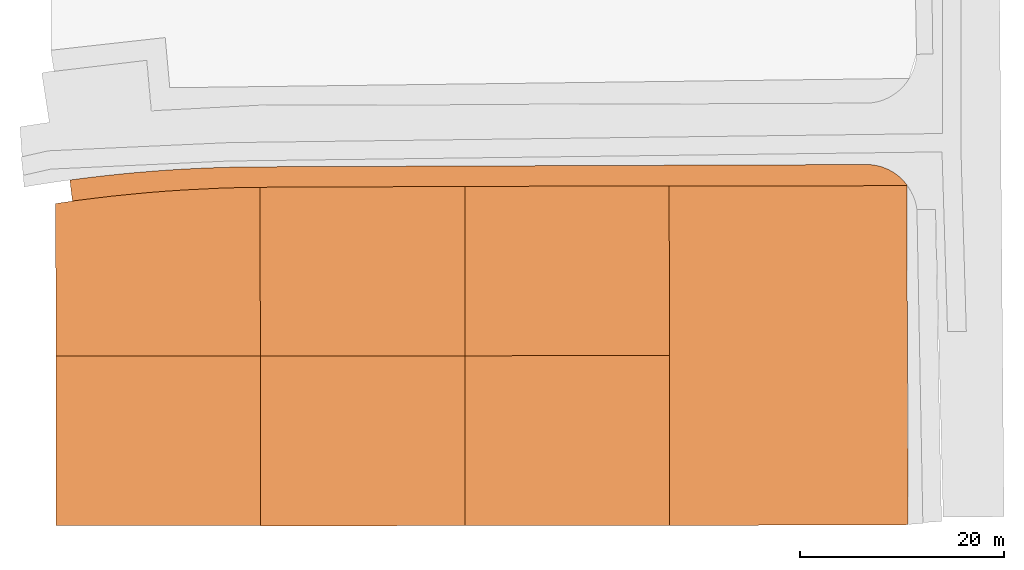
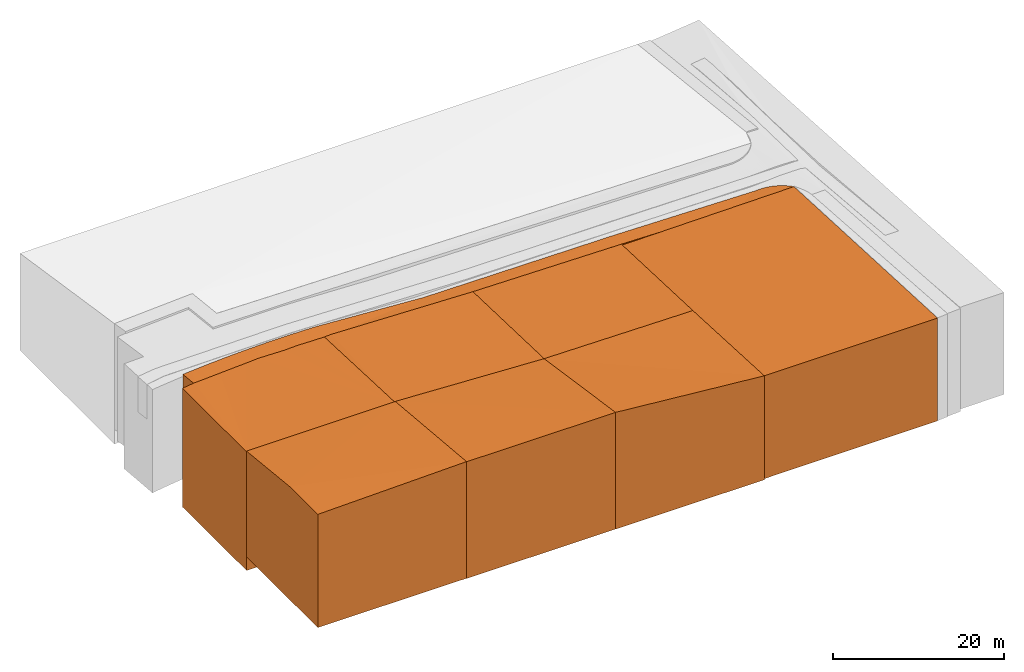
# Not in any storey, part 1 of 2: 8 geographic elements.
"""IFC4 model written with IfcOpenShell, lengths in metres."""

from ifc_helpers import new_model, entity, si_unit, converted_unit, derived_unit, direction, frame, origin_with_axes, place, context, subcontext, project, spatial, polygons, material, type_object, element, save


model = new_model("IFC4")

# Units and contexts
model_context = context("Model", 3, precision=1e-05, world=origin_with_axes(), true_north=direction((0.0, 1.0)))
body_context = subcontext(model_context, "Body", "Model", "MODEL_VIEW")
ifc_project = project(units=[si_unit("LENGTHUNIT", "METRE"), si_unit("AREAUNIT", "SQUARE_METRE"), si_unit("VOLUMEUNIT", "CUBIC_METRE"), converted_unit("PLANEANGLEUNIT", "DEGREE", entity("IfcPlaneAngleMeasure", 0.0174532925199), si_unit("PLANEANGLEUNIT", "RADIAN"), dimensions=[0, 0, 0, 0, 0, 0, 0]), si_unit("SOLIDANGLEUNIT", "STERADIAN"), converted_unit("TIMEUNIT", "Year", entity("IfcTimeMeasure", 31556926.0), si_unit("TIMEUNIT", "SECOND"), dimensions=[0, 0, 1, 0, 0, 0, 0]), si_unit("MASSUNIT", "GRAM", prefix="KILO"), si_unit("THERMODYNAMICTEMPERATUREUNIT", "DEGREE_CELSIUS"), si_unit("LUMINOUSINTENSITYUNIT", "LUMEN"), si_unit("ENERGYUNIT", "JOULE", prefix="MEGA"), derived_unit("THERMALCONDUCTANCEUNIT", [(si_unit("POWERUNIT", "WATT"), 1), (si_unit("LENGTHUNIT", "METRE"), -1), (si_unit("THERMODYNAMICTEMPERATUREUNIT", "KELVIN"), -1)]), derived_unit("SPECIFICHEATCAPACITYUNIT", [(si_unit("ENERGYUNIT", "JOULE"), 1), (si_unit("MASSUNIT", "GRAM", prefix="KILO"), -1), (si_unit("THERMODYNAMICTEMPERATUREUNIT", "KELVIN"), -1)]), derived_unit("MASSDENSITYUNIT", [(si_unit("MASSUNIT", "GRAM", prefix="KILO"), 1), (si_unit("VOLUMEUNIT", "CUBIC_METRE"), -1)])], contexts=[model_context])

# Site
site_placement = place(None, origin_with_axes())
site = spatial("IfcSite", under=ifc_project, at=site_placement, Name="Site", CompositionType="ELEMENT")

# Geographic elements
ifc_material = material(Name="Env. - Terre")
geographic_element_type = type_object("IfcGeographicElementType", Name="Env. - Terre", PredefinedType="NOTDEFINED")
geographic_element_1_placement = place(site_placement, frame((-61.6019965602, -16.826322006, 24.1732398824), z_axis=(0.0, 0.0, 1.0), x_axis=(1.0, 0.0, 0.0)))
element("IfcGeographicElement", 1, at=geographic_element_1_placement, inside=site, type_object=geographic_element_type, material=ifc_material, Name="TERRAIN-006", PredefinedType="NOTDEFINED", context=body_context, shape_type="Tessellation", body=[
    polygons([(20.1101505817, 16.6449490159, 13.6967425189), (0.937124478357, 16.5696756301, 14.3630794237), (20.1213346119, 0.00632140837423, 14.2135741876), (0.937124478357, 16.5696756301, 0.0), (20.1101505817, 16.6449490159, 0.0), (0.0128373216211, 0.0, 14.9917588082), (20.1213346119, 0.00632140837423, 0.0), (0.0, 16.5642294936, 0.0), (0.0, 16.5642294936, 14.319904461), (0.0128373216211, 0.0, 0.0)], [[[1, 2, 3]], [[4, 2, 1, 5]], [[3, 2, 6]], [[5, 1, 3, 7]], [[8, 9, 2, 4]], [[7, 10, 8, 4, 5]], [[2, 9, 6]], [[7, 3, 6, 10]], [[10, 6, 9, 8]]], closed=True),
])
geographic_element_2_placement = place(site_placement, frame((-81.6851109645, -33.4934445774, 24.1732398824), z_axis=(0.0, 0.0, 1.0), x_axis=(1.0, 0.0, 0.0)))
element("IfcGeographicElement", 2, at=geographic_element_2_placement, inside=site, type_object=geographic_element_type, material=ifc_material, Name="TERRAIN-006", PredefinedType="NOTDEFINED", context=body_context, shape_type="Tessellation", body=[
    polygons([(0.0112812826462, 0.0, 16.1603548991), (20.0991542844, 0.000425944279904, 16.6659378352), (0.0, 6.48702927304, 16.1603548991), (20.0991542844, 0.000425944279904, 0.0), (0.0112812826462, 0.0, 0.0), (20.0959517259, 16.6671225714, 15.1557880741), (0.0, 6.48702927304, 0.0), (20.0959517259, 16.6671225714, 0.0), (0.00486262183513, 16.6560357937, 0.0), (0.00486262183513, 16.6560357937, 15.0958883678)], [[[1, 2, 3]], [[4, 2, 1, 5]], [[6, 3, 2]], [[5, 1, 3, 7]], [[8, 6, 2, 4]], [[5, 7, 9, 8, 4]], [[10, 3, 6]], [[7, 3, 10, 9]], [[9, 10, 6, 8]]], closed=True),
])
geographic_element_3_placement = place(site_placement, frame((-41.4918459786, -16.8200005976, 24.1732398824), z_axis=(0.0, 0.0, 1.0), x_axis=(1.0, 0.0, 0.0)))
element("IfcGeographicElement", 3, at=geographic_element_3_placement, inside=site, type_object=geographic_element_type, material=ifc_material, Name="TERRAIN-012", PredefinedType="NOTDEFINED", context=body_context, shape_type="Tessellation", body=[
    polygons([(20.0879770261, 16.7067043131, 13.4031750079), (0.0, 16.6386276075, 13.6967425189), (20.1022731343, 0.0110867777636, 14.0438783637), (0.0, 16.6386276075, 0.0), (20.0879770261, 16.7067043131, 0.0), (0.0111840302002, 0.0, 14.2135741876), (20.1022731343, 0.0110867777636, 0.0), (0.0111840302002, 0.0, 0.0)], [[[1, 2, 3]], [[4, 2, 1, 5]], [[2, 6, 3]], [[5, 1, 3, 7]], [[8, 6, 2, 4]], [[7, 8, 4, 5]], [[7, 3, 6, 8]]], closed=True),
])
geographic_element_4_placement = place(site_placement, frame((-81.6977537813, -16.8374087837, 22.2291680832), z_axis=(0.0, 0.0, 1.0), x_axis=(1.0, 0.0, 0.0)))
element("IfcGeographicElement", 4, at=geographic_element_4_placement, inside=site, type_object=geographic_element_type, material=ifc_material, Name="TERRAIN-009", PredefinedType="NOTDEFINED", context=body_context, shape_type="Tessellation", body=[
    polygons([(18.2737328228, 16.5501278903, 16.3071512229), (16.4358562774, 16.5012099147, 16.3917643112), (20.1085945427, 0.0110867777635, 16.9358306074), (16.4358562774, 16.5012099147, 0.0), (18.2737328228, 16.5501278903, 0.0), (14.6058571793, 16.4127101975, 16.3915138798), (20.0957572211, 16.5753162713, 16.2639762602), (14.6058571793, 16.4127101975, 0.0), (20.0957572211, 16.5753162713, 0.0), (20.1085945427, 0.0110867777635, 0.0), (0.0175054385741, 0.0, 0.0), (0.0, 14.9749301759, 0.0), (1.81434145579, 15.2454864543, 0.0), (3.63656035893, 15.4764609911, 0.0), (5.46510067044, 15.69634875, 0.0), (7.28411024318, 15.8814201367, 0.0), (9.10944122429, 16.0554047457, 0.0), (10.9363282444, 16.2008943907, 0.0), (12.7647713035, 16.3178890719, 0.0), (12.7647713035, 16.3178890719, 16.5122324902), (0.0175054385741, 0.0, 16.9358306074), (0.0, 14.9749301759, 16.9358306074), (1.81434145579, 15.2454864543, 16.9358306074), (3.63656035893, 15.4764609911, 16.8278532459), (5.46510067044, 15.69634875, 16.7459225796), (7.28411024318, 15.8814201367, 16.6945955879), (9.10944122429, 16.0554047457, 16.6422586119), (10.9363282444, 16.2008943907, 16.6422586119)], [[[1, 2, 3]], [[4, 2, 1, 5]], [[2, 6, 3]], [[7, 1, 3]], [[8, 6, 2, 4]], [[5, 1, 7, 9]], [[9, 10, 11, 12, 13, 14, 15, 16, 17, 18, 19, 8, 4, 5]], [[6, 20, 3]], [[9, 7, 3, 10]], [[19, 20, 6, 8]], [[10, 3, 21, 11]], [[11, 21, 22, 12]], [[12, 22, 23, 13]], [[13, 23, 24, 14]], [[14, 24, 25, 15]], [[15, 25, 26, 16]], [[16, 26, 27, 17]], [[17, 27, 28, 18]], [[18, 28, 20, 19]], [[20, 28, 3]], [[21, 3, 27]], [[23, 22, 21]], [[24, 23, 21]], [[25, 24, 21]], [[26, 25, 21]], [[27, 26, 21]], [[28, 27, 3]]], closed=True),
])
geographic_element_5_placement = place(site_placement, frame((-21.4038689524, -33.5045313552, 24.3240901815), z_axis=(0.0, 0.0, 1.0), x_axis=(1.0, 0.0, 0.0)))
element("IfcGeographicElement", 5, at=geographic_element_5_placement, inside=site, type_object=geographic_element_type, material=ifc_material, Name="TERRAIN-006", PredefinedType="NOTDEFINED", context=body_context, shape_type="Tessellation", body=[
    polygons([(0.0, 33.3912350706, 13.091207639), (23.4683309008, 0.0794355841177, 14.6948484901), (23.3551713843, 33.4703840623, 13.2481073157), (0.0285922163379, 0.0, 14.6948484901), (23.3551713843, 33.4703840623, 0.0), (23.4683309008, 0.0794355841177, 0.0), (0.0, 33.3912350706, 0.0), (0.0285922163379, 0.0, 0.0)], [[[1, 2, 3]], [[4, 2, 1]], [[5, 3, 2, 6]], [[7, 1, 3, 5]], [[6, 2, 4, 8]], [[8, 4, 1, 7]], [[7, 5, 6, 8]]], closed=True),
])
geographic_element_6_placement = place(site_placement, frame((-80.3042681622, -1.61652489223, 24.3240901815), z_axis=(0.0, 0.0, 1.0), x_axis=(1.0, 0.0, 0.0)))
element("IfcGeographicElement", 6, at=geographic_element_6_placement, inside=site, type_object=geographic_element_type, material=ifc_material, Name="TERRAIN-001", PredefinedType="NOTDEFINED", context=body_context, shape_type="Tessellation", body=[
    polygons([(5.89062462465, 0.66053624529, 14.5996734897), (7.71595560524, 0.834520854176, 14.5473365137), (6.14089677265, 2.76679082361, 14.774128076), (7.71595560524, 0.834520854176, 0.0), (5.89062462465, 0.66053624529, 0.0), (7.33426005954, 2.87152822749, 14.7408980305), (4.94845151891, 2.65207301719, 14.8073519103), (9.54284262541, 0.980010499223, 0.0), (9.54284262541, 0.980010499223, 14.4918450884), (4.0716150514, 0.475464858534, 14.6510004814), (4.0716150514, 0.475464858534, 0.0), (0.255871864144, 0.0, 0.0), (0.0, 2.06671236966, 0.0), (0.189519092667, 2.09356883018, 0.0), (1.37745827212, 2.24812097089, 0.0), (2.56664890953, 2.39272901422, 0.0), (3.7570077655, 2.52738283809, 0.0), (4.94845151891, 2.65207301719, 0.0), (6.14089677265, 2.76679082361, 0.0), (7.33426005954, 2.87152822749, 0.0), (8.52845784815, 2.96627789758, 0.0), (9.7234065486, 3.05103320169, 0.0), (10.9190225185, 3.12578820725, 0.0), (12.1152220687, 3.19053768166, 0.0), (13.3119214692, 3.24527709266, 0.0), (14.509036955, 3.29000260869, 0.0), (15.7064847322, 3.3247110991, 0.0), (16.9041809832, 3.34940013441, 0.0), (18.1020418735, 3.36406798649, 0.0), (33.315022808, 3.42306478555, 0.0), (58.8925693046, 3.52225599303, 0.0), (78.1404491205, 3.59003014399, 0.0), (78.203196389, 3.59279423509, 0.0), (78.4260953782, 3.59167957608, 0.0), (78.648716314, 3.58049383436, 0.0), (78.8706043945, 3.55925986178, 0.0), (79.0913063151, 3.52802103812, 0.0), (79.3103711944, 3.4868411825, 0.0), (79.5273514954, 3.43580442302, 0.0), (79.7418039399, 3.37501502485, 0.0), (79.9532904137, 3.30459717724, 0.0), (80.1613788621, 3.22469473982, 0.0), (80.3656441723, 3.1354709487, 0.0), (80.565669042, 3.03710808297, 0.0), (80.7610448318, 2.92980709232, 0.0), (80.9513724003, 2.81378718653, 0.0), (81.1362629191, 2.68928538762, 0.0), (81.3153386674, 2.55655604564, 0.0), (81.4882338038, 2.41587031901, 0.0), (81.6545951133, 2.26751562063, 0.0), (81.8140827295, 2.11179503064, 0.0), (81.9663708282, 1.94902667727, 0.0), (82.1111482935, 1.77954308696, 0.0), (82.2481193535, 1.60369050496, 0.0), (82.3125617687, 1.51275934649, 0.0), (74.5758217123, 1.50004395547, 0.0), (58.9003992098, 1.50322860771, 0.0), (38.8124221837, 1.43515190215, 0.0), (19.639396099, 1.35987851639, 0.0), (18.702271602, 1.35443237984, 0.0), (16.8802472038, 1.32924399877, 0.0), (15.0423706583, 1.2803260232, 0.0), (13.212371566, 1.19182630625, 0.0), (11.3712856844, 1.09700518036, 0.0), (2.24307474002, 0.25557709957, 0.0), (0.420855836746, 0.02460256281, 0.0), (8.52845784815, 2.96627789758, 14.7076640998), (11.3712856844, 1.09700518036, 14.4005443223), (2.24307474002, 0.25557709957, 14.7279337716), (0.255871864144, 0.0, 14.8409085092), (0.0, 2.06671236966, 14.9454355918), (0.189519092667, 2.09356883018, 14.9401386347), (1.37745827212, 2.24812097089, 14.9069628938), (2.56664890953, 2.39272901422, 14.8737716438), (3.7570077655, 2.52738283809, 14.8405672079), (9.7234065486, 3.05103320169, 14.6744286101), (10.9190225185, 3.12578820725, 14.6411938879), (12.1152220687, 3.19053768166, 14.6079622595), (13.3119214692, 3.24527709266, 14.574736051), (14.509036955, 3.29000260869, 14.541517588), (15.7064847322, 3.3247110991, 14.5083091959), (16.9041809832, 3.34940013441, 14.475113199), (18.1020418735, 3.36406798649, 14.4419319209), (18.7010127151, 3.36639080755, 14.4253498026), (33.315022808, 3.42306478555, 13.4499792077), (58.8925693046, 3.52225599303, 13.2523247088), (78.1404491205, 3.59003014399, 12.8559295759), (78.203196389, 3.59279423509, 12.8605524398), (78.4260953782, 3.59167957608, 12.8773844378), (78.648716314, 3.58049383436, 12.8945732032), (78.8706043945, 3.55925986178, 12.9120836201), (79.0913063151, 3.52802103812, 12.9298799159), (79.3103711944, 3.4868411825, 12.9479257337), (79.5273514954, 3.43580442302, 12.966184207), (79.7418039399, 3.37501502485, 12.9846180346), (79.9532904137, 3.30459717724, 13.0031895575), (80.1613788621, 3.22469473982, 13.021860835), (80.3656441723, 3.1354709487, 13.0405937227), (80.565669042, 3.03710808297, 13.0593499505), (80.7610448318, 2.92980709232, 13.0780912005), (80.9513724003, 2.81378718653, 13.0967791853), (81.1362629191, 2.68928538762, 13.1153757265), (81.3153386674, 2.55655604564, 13.1338428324), (81.4882338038, 2.41587031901, 13.1521427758), (81.6545951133, 2.26751562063, 13.1702381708), (81.8140827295, 2.11179503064, 13.1880920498), (81.9663708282, 1.94902667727, 13.2056679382), (82.1111482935, 1.77954308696, 13.2229299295), (82.2481193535, 1.60369050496, 13.2398427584), (82.3125617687, 1.51275934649, 13.2481073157), (74.5758217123, 1.50004395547, 12.9093213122), (58.9003992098, 1.50322860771, 13.2523247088), (38.8124221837, 1.43515190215, 13.5458922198), (19.639396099, 1.35987851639, 14.1064627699), (18.702271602, 1.35443237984, 14.1430846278), (16.8802472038, 1.32924399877, 14.2122291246), (15.0423706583, 1.2803260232, 14.2968422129), (13.212371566, 1.19182630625, 14.2965917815), (0.420855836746, 0.02460256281, 14.8409085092)], [[[1, 2, 3]], [[4, 2, 1, 5]], [[6, 3, 2]], [[3, 7, 1]], [[8, 9, 2, 4]], [[5, 1, 10, 11]], [[12, 13, 14, 15, 16, 17, 18, 19, 20, 21, 22, 23, 24, 25, 26, 27, 28, 29, 30, 31, 32, 33, 34, 35, 36, 37, 38, 39, 40, 41, 42, 43, 44, 45, 46, 47, 48, 49, 50, 51, 52, 53, 54, 55, 56, 57, 58, 59, 60, 61, 62, 63, 64, 8, 4, 5, 11, 65, 66]], [[19, 3, 6, 20]], [[67, 6, 2]], [[18, 7, 3, 19]], [[10, 1, 7]], [[64, 68, 9, 8]], [[2, 9, 67]], [[11, 10, 69, 65]], [[12, 70, 71, 13]], [[13, 71, 72, 14]], [[14, 72, 73, 15]], [[15, 73, 74, 16]], [[16, 74, 75, 17]], [[17, 75, 7, 18]], [[20, 6, 67, 21]], [[21, 67, 76, 22]], [[22, 76, 77, 23]], [[23, 77, 78, 24]], [[24, 78, 79, 25]], [[25, 79, 80, 26]], [[26, 80, 81, 27]], [[27, 81, 82, 28]], [[28, 82, 83, 29]], [[29, 83, 84, 85, 30]], [[30, 85, 86, 31]], [[31, 86, 87, 32]], [[32, 87, 88, 33]], [[33, 88, 89, 34]], [[34, 89, 90, 35]], [[35, 90, 91, 36]], [[36, 91, 92, 37]], [[37, 92, 93, 38]], [[38, 93, 94, 39]], [[39, 94, 95, 40]], [[40, 95, 96, 41]], [[41, 96, 97, 42]], [[42, 97, 98, 43]], [[43, 98, 99, 44]], [[44, 99, 100, 45]], [[45, 100, 101, 46]], [[46, 101, 102, 47]], [[47, 102, 103, 48]], [[48, 103, 104, 49]], [[49, 104, 105, 50]], [[50, 105, 106, 51]], [[51, 106, 107, 52]], [[52, 107, 108, 53]], [[53, 108, 109, 54]], [[54, 109, 110, 55]], [[55, 110, 111, 56]], [[56, 111, 112, 57]], [[57, 112, 113, 58]], [[58, 113, 114, 59]], [[59, 114, 115, 60]], [[60, 115, 116, 61]], [[61, 116, 117, 62]], [[62, 117, 118, 63]], [[63, 118, 68, 64]], [[65, 69, 119, 66]], [[66, 119, 70, 12]], [[7, 75, 10]], [[9, 68, 77]], [[76, 67, 9]], [[69, 10, 74]], [[70, 119, 71]], [[72, 71, 119]], [[73, 72, 119]], [[74, 73, 69]], [[75, 74, 10]], [[77, 76, 9]], [[78, 77, 68]], [[79, 78, 118]], [[80, 79, 118]], [[81, 80, 117]], [[82, 81, 116]], [[83, 82, 116]], [[84, 83, 115]], [[85, 84, 114]], [[86, 85, 113]], [[87, 86, 111]], [[88, 87, 89]], [[90, 89, 111]], [[91, 90, 111]], [[92, 91, 111]], [[93, 92, 111]], [[94, 93, 111]], [[95, 94, 111]], [[96, 95, 111]], [[97, 96, 111]], [[98, 97, 111]], [[99, 98, 111]], [[100, 99, 111]], [[101, 100, 111]], [[102, 101, 111]], [[103, 102, 111]], [[104, 103, 111]], [[105, 104, 111]], [[106, 105, 111]], [[107, 106, 111]], [[108, 107, 110, 109]], [[111, 110, 107]], [[112, 111, 86]], [[113, 112, 86]], [[114, 113, 85]], [[115, 114, 84]], [[116, 115, 83]], [[117, 116, 81]], [[118, 117, 80]], [[68, 118, 78]], [[119, 69, 73]], [[111, 89, 87]]], closed=True),
])
geographic_element_7_placement = place(site_placement, frame((-41.4806619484, -33.5219395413, 24.1732398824), z_axis=(0.0, 0.0, 1.0), x_axis=(1.0, 0.0, 0.0)))
element("IfcGeographicElement", 7, at=geographic_element_7_placement, inside=site, type_object=geographic_element_type, material=ifc_material, Name="TERRAIN-011", PredefinedType="NOTDEFINED", context=body_context, shape_type="Tessellation", body=[
    polygons([(20.1053852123, 0.0174081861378, 14.8456987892), (20.0910891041, 16.7130257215, 14.0438783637), (0.0, 16.7019389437, 14.2135741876), (20.0910891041, 16.7130257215, 0.0), (20.1053852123, 0.0174081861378, 0.0), (0.0, 16.7019389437, 0.0), (0.00320933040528, 0.0, 16.6691311), (0.00320933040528, 0.0, 0.0)], [[[1, 2, 3]], [[4, 2, 1, 5]], [[6, 3, 2, 4]], [[7, 1, 3]], [[5, 1, 7, 8]], [[6, 4, 5, 8]], [[8, 7, 3, 6]]], closed=True),
])
geographic_element_8_placement = place(site_placement, frame((-61.5891592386, -33.5282609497, 24.1732398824), z_axis=(0.0, 0.0, 1.0), x_axis=(1.0, 0.0, 0.0)))
element("IfcGeographicElement", 8, at=geographic_element_8_placement, inside=site, type_object=geographic_element_type, material=ifc_material, Name="TERRAIN-013", PredefinedType="NOTDEFINED", context=body_context, shape_type="Tessellation", body=[
    polygons([(20.1084972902, 16.7082603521, 14.2135741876), (0.0, 16.7019389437, 15.1557880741), (20.1117066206, 0.00632140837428, 16.6691311), (0.0, 16.7019389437, 0.0), (20.1084972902, 16.7082603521, 0.0), (0.00320933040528, 0.0, 16.6691311), (20.1117066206, 0.00632140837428, 0.0), (0.00320933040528, 0.0, 0.0)], [[[1, 2, 3]], [[4, 2, 1, 5]], [[2, 6, 3]], [[5, 1, 3, 7]], [[8, 6, 2, 4]], [[7, 8, 4, 5]], [[7, 3, 6, 8]]], closed=True),
])

save(model, "model.ifc")
